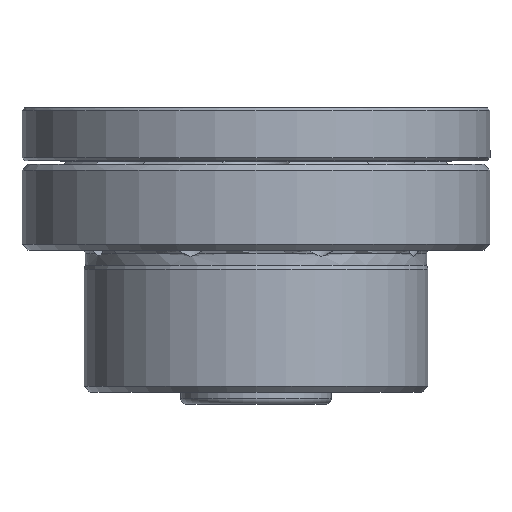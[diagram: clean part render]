
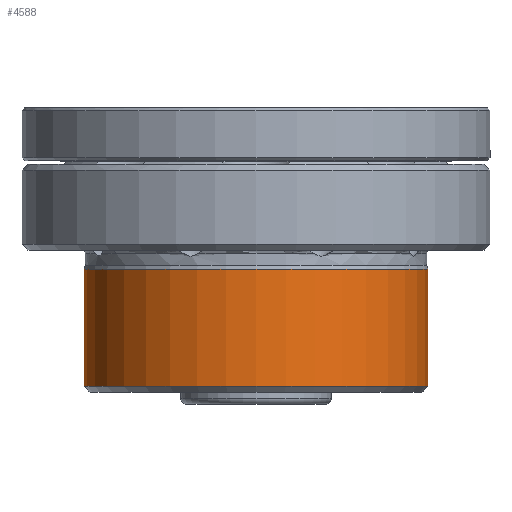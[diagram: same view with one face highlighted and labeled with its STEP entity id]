
A CAD part, front view. The second image highlights one B-rep face of the part: STEP entity #4588.
In plain terms, the highlighted cylindrical face has radius 29 mm (diameter 58 mm), a partial arc.
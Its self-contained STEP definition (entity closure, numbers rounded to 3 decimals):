
#127 = VERTEX_POINT ( 'NONE', #5414 ) ;
#136 = VERTEX_POINT ( 'NONE', #5460 ) ;
#3982 = VERTEX_POINT ( 'NONE', #12192 ) ;
#3987 = EDGE_CURVE ( 'NONE', #136, #3982, #12239, .T. ) ;
#3990 = VERTEX_POINT ( 'NONE', #12230 ) ;
#3992 = EDGE_CURVE ( 'NONE', #127, #3990, #12229, .T. ) ;
#4587 = EDGE_CURVE ( 'NONE', #3982, #3990, #13205, .T. ) ;
#4588 = ADVANCED_FACE ( 'NONE', ( #13200 ), #13199, .T. ) ;
#4589 = EDGE_LOOP ( 'NONE', ( #4590, #4591, #4593, #4594 ) ) ;
#4590 = ORIENTED_EDGE ( 'NONE', *, *, #3987, .F. ) ;
#4591 = ORIENTED_EDGE ( 'NONE', *, *, #4592, .T. ) ;
#4592 = EDGE_CURVE ( 'NONE', #136, #127, #13194, .T. ) ;
#4593 = ORIENTED_EDGE ( 'NONE', *, *, #3992, .T. ) ;
#4594 = ORIENTED_EDGE ( 'NONE', *, *, #4587, .F. ) ;
#5414 = CARTESIAN_POINT ( 'NONE',  ( 29., 0., -38. ) ) ;
#5460 = CARTESIAN_POINT ( 'NONE',  ( -29., 0., -38. ) ) ;
#12192 = CARTESIAN_POINT ( 'NONE',  ( -29., 0., -18.2 ) ) ;
#12226 = DIRECTION ( 'NONE',  ( 0., 0., 1. ) ) ;
#12227 = VECTOR ( 'NONE', #12226, 1000. ) ;
#12228 = CARTESIAN_POINT ( 'NONE',  ( 29., 0., 58.046 ) ) ;
#12229 = LINE ( 'NONE', #12228, #12227 ) ;
#12230 = CARTESIAN_POINT ( 'NONE',  ( 29., 0., -18.2 ) ) ;
#12236 = DIRECTION ( 'NONE',  ( 0., 0., 1. ) ) ;
#12237 = VECTOR ( 'NONE', #12236, 1000. ) ;
#12238 = CARTESIAN_POINT ( 'NONE',  ( -29., 0., 58.046 ) ) ;
#12239 = LINE ( 'NONE', #12238, #12237 ) ;
#13190 = DIRECTION ( 'NONE',  ( 1., 0., 0. ) ) ;
#13191 = DIRECTION ( 'NONE',  ( 0., 0., 1. ) ) ;
#13192 = CARTESIAN_POINT ( 'NONE',  ( 0., 0., -38. ) ) ;
#13193 = AXIS2_PLACEMENT_3D ( 'NONE', #13192, #13191, #13190 ) ;
#13194 = CIRCLE ( 'NONE', #13193, 29. ) ;
#13195 = DIRECTION ( 'NONE',  ( 1., 0., 0. ) ) ;
#13196 = DIRECTION ( 'NONE',  ( 0., 0., 1. ) ) ;
#13197 = CARTESIAN_POINT ( 'NONE',  ( 0., 0., 58.046 ) ) ;
#13198 = AXIS2_PLACEMENT_3D ( 'NONE', #13197, #13196, #13195 ) ;
#13199 = CYLINDRICAL_SURFACE ( 'NONE', #13198, 29. ) ;
#13200 = FACE_OUTER_BOUND ( 'NONE', #4589, .T. ) ;
#13201 = DIRECTION ( 'NONE',  ( 1., 0., 0. ) ) ;
#13202 = DIRECTION ( 'NONE',  ( 0., 0., 1. ) ) ;
#13203 = CARTESIAN_POINT ( 'NONE',  ( 0., 0., -18.2 ) ) ;
#13204 = AXIS2_PLACEMENT_3D ( 'NONE', #13203, #13202, #13201 ) ;
#13205 = CIRCLE ( 'NONE', #13204, 29. ) ;
